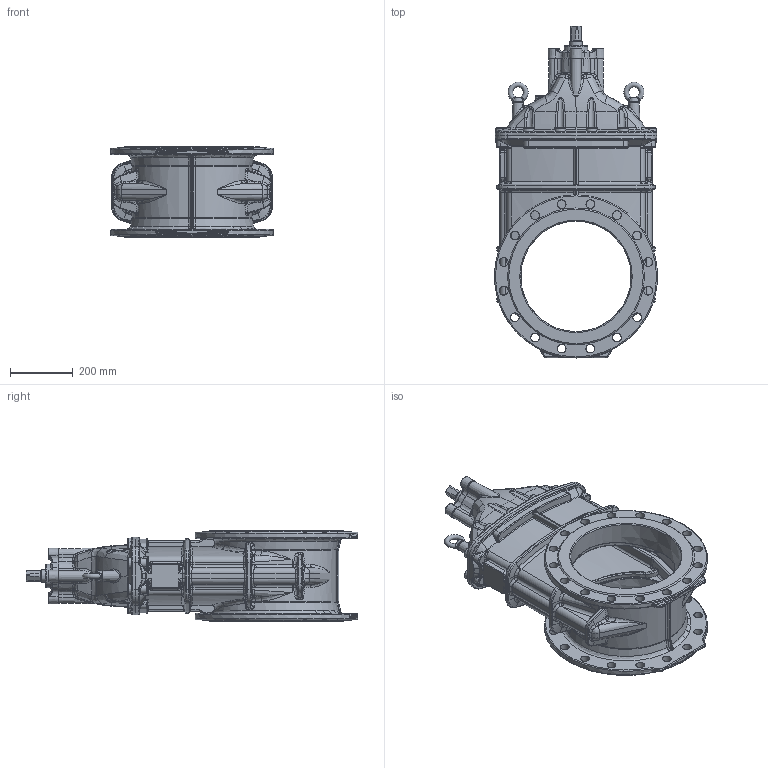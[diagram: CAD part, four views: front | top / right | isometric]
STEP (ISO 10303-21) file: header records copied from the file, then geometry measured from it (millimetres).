
FILE_DESCRIPTION(/* description */ (''),/* implementation_level */ '2;1');
FILE_NAME(/* name */ 'F4-DN350PN16.stp',/* time_stamp */ '2024-08-01T08:24:58+07:00',/* author */ ('Eva'),/* organization */ (''),/* preprocessor_version */ 'ST-DEVELOPER v20',/* originating_system */ 'Autodesk Inventor 2025',/* authorisation */ '');
FILE_SCHEMA (('AUTOMOTIVE_DESIGN { 1 0 10303 214 3 1 1 }'));
Products named in the file (9): F4-DN350PN16; ·§ёЛ DN350PN16(Z45X14302-04-00 
20Cr13); ·§ёЗ DN350PN16(Z45X140302-12-00 QT450-10)(Д¬ИП); ЖЅН·С№ёЗ DN350 PN16ЈЁZ4
5X14302-07-00 QT450-10Ј©; ·АіѕИ¦ DN350PN16ЈЁZ
45X16302-11-00 NBRЈ©; M12 ДЪБщЅЗФІЦщН·ВЭ¶¤ 
GB T 70.1-2000(M12ЎБ35); M16 ДЪБщЅЗФІЦщН·ВЭ¶¤ 
GB T 70.1-2000(M16ЎБ35); µх»·ВЭ¶¤ GBT 825-198
8(M16); Бгјю9
Assembly tree (23 placements, depth 2):
  F4-DN350PN16
    ·§ёЛ DN350PN16(Z45X14302-04-00 
20Cr13)
    ·§ёЗ DN350PN16(Z45X140302-12-00 QT450-10)(Д¬ИП)
    ЖЅН·С№ёЗ DN350 PN16ЈЁZ4
5X14302-07-00 QT450-10Ј©
    µх»·ВЭ¶¤ GBT 825-198
8(M16)  x2
    ·АіѕИ¦ DN350PN16ЈЁZ
45X16302-11-00 NBRЈ©
    M12 ДЪБщЅЗФІЦщН·ВЭ¶¤ 
GB T 70.1-2000(M12ЎБ35)  x12
    M16 ДЪБщЅЗФІЦщН·ВЭ¶¤ 
GB T 70.1-2000(M16ЎБ35)  x4
    Бгјю9
Bounding box: 520 x 1059.5 x 290 mm (x, y, z)
Volume: 20260429.9 mm3; surface area: 2652527.5 mm2
Topology: 23 solids, 23 shells, 2428 faces, 5706 edges, 3349 vertices
Faces by surface type: bspline 992, plane 497, cylinder 440, torus 288, cone 191, sphere 20
Full cylindrical faces by diameter (mm): 8.5 x1, 10.3 x12, 11.8 x1, 12 x12, 13 x2, 14 x6, 14.2 x12, 16 x6, 18 x4, 18.27 x12, 24.33 x4, 28 x32, 36 x1, 40 x2, 45 x1, 48 x1, 48.5 x1, 520 x2
Entity records: 138883 total; most frequent: CARTESIAN_POINT 94742, ORIENTED_EDGE 10198, DIRECTION 7890, EDGE_CURVE 5099, AXIS2_PLACEMENT_3D 3470, VERTEX_POINT 2988, EDGE_LOOP 2297, FACE_OUTER_BOUND 2158
